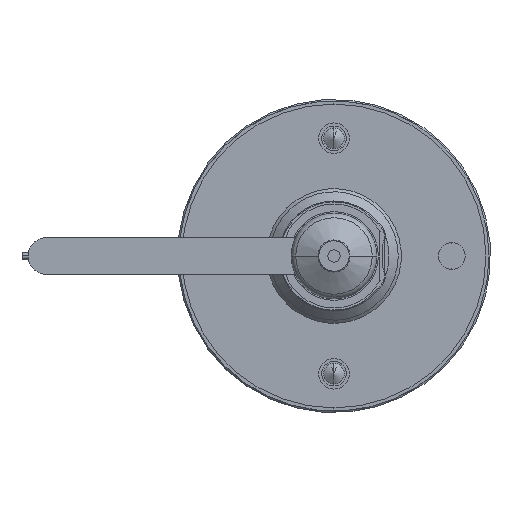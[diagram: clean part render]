
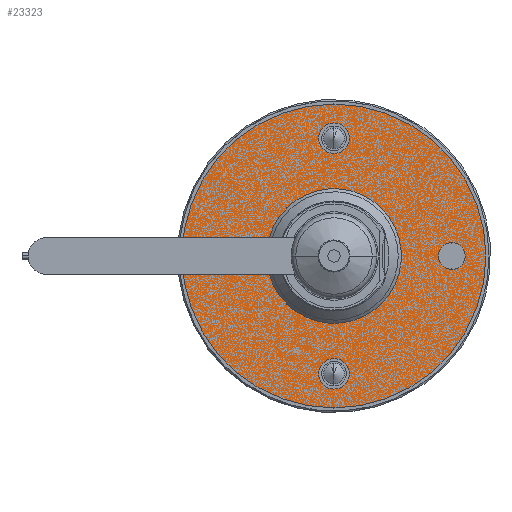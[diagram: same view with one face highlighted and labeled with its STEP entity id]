
A CAD part, front view. The second image highlights one B-rep face of the part: STEP entity #23323.
In plain terms, the highlighted planar face has unit normal (0, -1, 0) as drawn and (0, 0, -1) by its records, which use the part's own axes.
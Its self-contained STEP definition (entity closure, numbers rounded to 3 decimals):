
#495 = DIRECTION ( 'NONE',  ( 0., 0., 1. ) ) ;
#649 = DIRECTION ( 'NONE',  ( -1., 0., 0. ) ) ;
#711 = AXIS2_PLACEMENT_3D ( 'NONE', #16059, #6734, #4164 ) ;
#1151 = AXIS2_PLACEMENT_3D ( 'NONE', #1578, #17909, #27221 ) ;
#1405 = FACE_BOUND ( 'NONE', #7753, .T. ) ;
#1578 = CARTESIAN_POINT ( 'NONE',  ( 38.5, 0., 0. ) ) ;
#2086 = CIRCLE ( 'NONE', #12331, 49.675 ) ;
#2108 = AXIS2_PLACEMENT_3D ( 'NONE', #4282, #25341, #9001 ) ;
#2188 = ORIENTED_EDGE ( 'NONE', *, *, #16621, .T. ) ;
#2557 = AXIS2_PLACEMENT_3D ( 'NONE', #25421, #9522, #28152 ) ;
#2767 = DIRECTION ( 'NONE',  ( 0., 0., 1. ) ) ;
#2788 = CARTESIAN_POINT ( 'NONE',  ( 16.5, 0., 0. ) ) ;
#3205 = DIRECTION ( 'NONE',  ( 0., 0., 1. ) ) ;
#3593 = CARTESIAN_POINT ( 'NONE',  ( 0., 0., 0. ) ) ;
#4130 = EDGE_CURVE ( 'NONE', #11082, #17785, #22802, .T. ) ;
#4164 = DIRECTION ( 'NONE',  ( -1., 0., 0. ) ) ;
#4282 = CARTESIAN_POINT ( 'NONE',  ( 16.5, 0., 0. ) ) ;
#4491 = CIRCLE ( 'NONE', #21571, 16.5 ) ;
#5336 = CARTESIAN_POINT ( 'NONE',  ( 38.5, 0., 0. ) ) ;
#5796 = ORIENTED_EDGE ( 'NONE', *, *, #17360, .T. ) ;
#6123 = FACE_BOUND ( 'NONE', #7244, .T. ) ;
#6585 = EDGE_CURVE ( 'NONE', #7287, #24059, #25303, .T. ) ;
#6599 = CARTESIAN_POINT ( 'NONE',  ( 43.5, 0., 0. ) ) ;
#6641 = VERTEX_POINT ( 'NONE', #6599 ) ;
#6734 = DIRECTION ( 'NONE',  ( 0., 0., 1. ) ) ;
#6801 = VERTEX_POINT ( 'NONE', #20789 ) ;
#7052 = CARTESIAN_POINT ( 'NONE',  ( -38.5, 0., 0. ) ) ;
#7244 = EDGE_LOOP ( 'NONE', ( #9094, #27320 ) ) ;
#7287 = VERTEX_POINT ( 'NONE', #2788 ) ;
#7408 = EDGE_CURVE ( 'NONE', #6801, #8356, #28246, .T. ) ;
#7753 = EDGE_LOOP ( 'NONE', ( #12509, #17957 ) ) ;
#7872 = DIRECTION ( 'NONE',  ( 0., 0., 1. ) ) ;
#8356 = VERTEX_POINT ( 'NONE', #26108 ) ;
#8744 = AXIS2_PLACEMENT_3D ( 'NONE', #7052, #495, #28593 ) ;
#8931 = VERTEX_POINT ( 'NONE', #22851 ) ;
#9001 = DIRECTION ( 'NONE',  ( -1., 0., 0. ) ) ;
#9094 = ORIENTED_EDGE ( 'NONE', *, *, #10261, .T. ) ;
#9139 = VERTEX_POINT ( 'NONE', #10237 ) ;
#9192 = ORIENTED_EDGE ( 'NONE', *, *, #6585, .T. ) ;
#9522 = DIRECTION ( 'NONE',  ( 0., 0., -1. ) ) ;
#10237 = CARTESIAN_POINT ( 'NONE',  ( 49.675, 0., 0. ) ) ;
#10261 = EDGE_CURVE ( 'NONE', #14403, #6641, #10899, .T. ) ;
#10286 = EDGE_CURVE ( 'NONE', #8931, #20660, #10339, .T. ) ;
#10326 = DIRECTION ( 'NONE',  ( 1., 0., 0. ) ) ;
#10339 = CIRCLE ( 'NONE', #27943, 4.4 ) ;
#10626 = ORIENTED_EDGE ( 'NONE', *, *, #28633, .T. ) ;
#10717 = FACE_BOUND ( 'NONE', #19942, .T. ) ;
#10899 = CIRCLE ( 'NONE', #1151, 5. ) ;
#10975 = DIRECTION ( 'NONE',  ( 0., 0., 1. ) ) ;
#11081 = EDGE_CURVE ( 'NONE', #24059, #7287, #4491, .T. ) ;
#11082 = VERTEX_POINT ( 'NONE', #12475 ) ;
#12056 = AXIS2_PLACEMENT_3D ( 'NONE', #17119, #12100, #649 ) ;
#12100 = DIRECTION ( 'NONE',  ( 0., 0., 1. ) ) ;
#12143 = EDGE_LOOP ( 'NONE', ( #5796, #24226 ) ) ;
#12203 = EDGE_LOOP ( 'NONE', ( #9192, #25332 ) ) ;
#12331 = AXIS2_PLACEMENT_3D ( 'NONE', #22404, #15051, #22545 ) ;
#12475 = CARTESIAN_POINT ( 'NONE',  ( 4.4, -38.5, 0. ) ) ;
#12486 = CIRCLE ( 'NONE', #13469, 4.4 ) ;
#12509 = ORIENTED_EDGE ( 'NONE', *, *, #26209, .T. ) ;
#12905 = DIRECTION ( 'NONE',  ( 0., 0., 1. ) ) ;
#13017 = FACE_OUTER_BOUND ( 'NONE', #18366, .T. ) ;
#13130 = CARTESIAN_POINT ( 'NONE',  ( 0., -38.5, 0. ) ) ;
#13469 = AXIS2_PLACEMENT_3D ( 'NONE', #13130, #10975, #22737 ) ;
#13998 = AXIS2_PLACEMENT_3D ( 'NONE', #5336, #3205, #23961 ) ;
#14116 = CARTESIAN_POINT ( 'NONE',  ( -4.4, -38.5, 0. ) ) ;
#14403 = VERTEX_POINT ( 'NONE', #19979 ) ;
#15023 = CARTESIAN_POINT ( 'NONE',  ( -16.5, 0., 0. ) ) ;
#15051 = DIRECTION ( 'NONE',  ( 0., 0., -1. ) ) ;
#15443 = FACE_BOUND ( 'NONE', #12143, .T. ) ;
#15926 = CIRCLE ( 'NONE', #13998, 5. ) ;
#16024 = PLANE ( 'NONE',  #2108 ) ;
#16042 = AXIS2_PLACEMENT_3D ( 'NONE', #3593, #12905, #21767 ) ;
#16059 = CARTESIAN_POINT ( 'NONE',  ( -38.5, 0., 0. ) ) ;
#16621 = EDGE_CURVE ( 'NONE', #9139, #30209, #2086, .T. ) ;
#16652 = CARTESIAN_POINT ( 'NONE',  ( 0., 38.5, 0. ) ) ;
#17037 = CARTESIAN_POINT ( 'NONE',  ( 0., 0., 0. ) ) ;
#17119 = CARTESIAN_POINT ( 'NONE',  ( 0., 38.5, 0. ) ) ;
#17273 = DIRECTION ( 'NONE',  ( 0., 0., 1. ) ) ;
#17360 = EDGE_CURVE ( 'NONE', #8356, #6801, #20238, .T. ) ;
#17785 = VERTEX_POINT ( 'NONE', #14116 ) ;
#17909 = DIRECTION ( 'NONE',  ( 0., 0., 1. ) ) ;
#17957 = ORIENTED_EDGE ( 'NONE', *, *, #4130, .T. ) ;
#18366 = EDGE_LOOP ( 'NONE', ( #2188, #21234 ) ) ;
#19104 = DIRECTION ( 'NONE',  ( -1., 0., 0. ) ) ;
#19106 = CARTESIAN_POINT ( 'NONE',  ( 0., -38.5, 0. ) ) ;
#19942 = EDGE_LOOP ( 'NONE', ( #24943, #10626 ) ) ;
#19979 = CARTESIAN_POINT ( 'NONE',  ( 33.5, 0., 0. ) ) ;
#20238 = CIRCLE ( 'NONE', #711, 5. ) ;
#20660 = VERTEX_POINT ( 'NONE', #26890 ) ;
#20789 = CARTESIAN_POINT ( 'NONE',  ( -33.5, 0., 0. ) ) ;
#21234 = ORIENTED_EDGE ( 'NONE', *, *, #22421, .T. ) ;
#21571 = AXIS2_PLACEMENT_3D ( 'NONE', #17037, #7872, #10326 ) ;
#21767 = DIRECTION ( 'NONE',  ( 1., 0., 0. ) ) ;
#22404 = CARTESIAN_POINT ( 'NONE',  ( 0., 0., 0. ) ) ;
#22421 = EDGE_CURVE ( 'NONE', #30209, #9139, #29869, .T. ) ;
#22545 = DIRECTION ( 'NONE',  ( -1., 0., 0. ) ) ;
#22737 = DIRECTION ( 'NONE',  ( -1., 0., 0. ) ) ;
#22802 = CIRCLE ( 'NONE', #30108, 4.4 ) ;
#22851 = CARTESIAN_POINT ( 'NONE',  ( -4.4, 38.5, 0. ) ) ;
#23323 = ADVANCED_FACE ( 'NONE', ( #13017, #1405, #10717, #6123, #15443, #24761 ), #16024, .T. ) ;
#23961 = DIRECTION ( 'NONE',  ( -1., 0., 0. ) ) ;
#24059 = VERTEX_POINT ( 'NONE', #15023 ) ;
#24226 = ORIENTED_EDGE ( 'NONE', *, *, #7408, .T. ) ;
#24761 = FACE_BOUND ( 'NONE', #12203, .T. ) ;
#24943 = ORIENTED_EDGE ( 'NONE', *, *, #10286, .T. ) ;
#25223 = CIRCLE ( 'NONE', #12056, 4.4 ) ;
#25303 = CIRCLE ( 'NONE', #16042, 16.5 ) ;
#25332 = ORIENTED_EDGE ( 'NONE', *, *, #11081, .T. ) ;
#25341 = DIRECTION ( 'NONE',  ( 0., 0., -1. ) ) ;
#25421 = CARTESIAN_POINT ( 'NONE',  ( 0., 0., 0. ) ) ;
#26108 = CARTESIAN_POINT ( 'NONE',  ( -43.5, 0., 0. ) ) ;
#26209 = EDGE_CURVE ( 'NONE', #17785, #11082, #12486, .T. ) ;
#26890 = CARTESIAN_POINT ( 'NONE',  ( 4.4, 38.5, 0. ) ) ;
#27221 = DIRECTION ( 'NONE',  ( -1., 0., 0. ) ) ;
#27320 = ORIENTED_EDGE ( 'NONE', *, *, #28030, .T. ) ;
#27943 = AXIS2_PLACEMENT_3D ( 'NONE', #16652, #2767, #19104 ) ;
#28030 = EDGE_CURVE ( 'NONE', #6641, #14403, #15926, .T. ) ;
#28152 = DIRECTION ( 'NONE',  ( -1., 0., 0. ) ) ;
#28246 = CIRCLE ( 'NONE', #8744, 5. ) ;
#28425 = DIRECTION ( 'NONE',  ( -1., 0., 0. ) ) ;
#28593 = DIRECTION ( 'NONE',  ( -1., 0., 0. ) ) ;
#28633 = EDGE_CURVE ( 'NONE', #20660, #8931, #25223, .T. ) ;
#29869 = CIRCLE ( 'NONE', #2557, 49.675 ) ;
#30020 = CARTESIAN_POINT ( 'NONE',  ( -49.675, 0., 0. ) ) ;
#30108 = AXIS2_PLACEMENT_3D ( 'NONE', #19106, #17273, #28425 ) ;
#30209 = VERTEX_POINT ( 'NONE', #30020 ) ;
